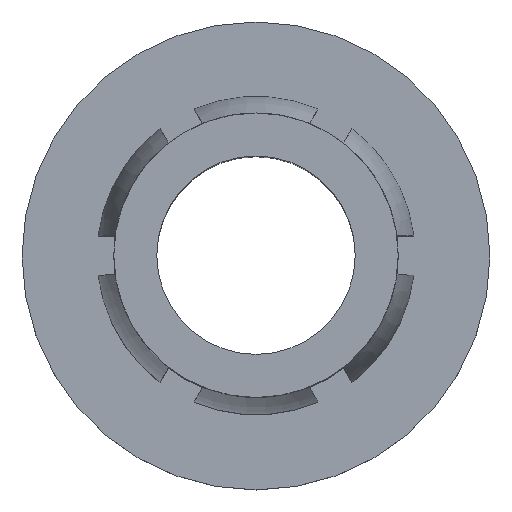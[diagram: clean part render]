
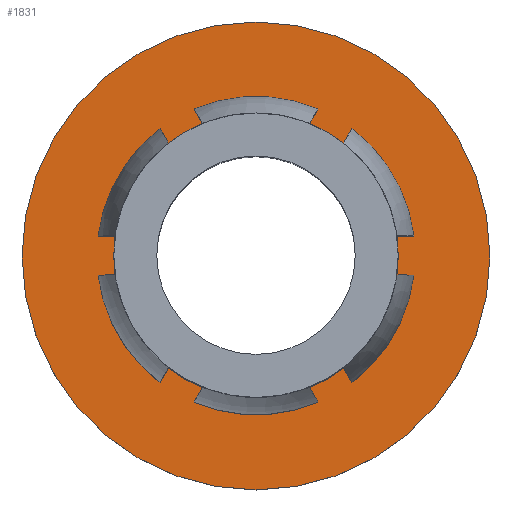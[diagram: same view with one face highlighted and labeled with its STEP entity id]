
A CAD part, top view. The second image highlights one B-rep face of the part: STEP entity #1831.
In plain terms, the highlighted planar face has unit normal (0, 0, 1).
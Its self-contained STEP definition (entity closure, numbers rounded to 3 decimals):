
#208 = PLANE ( 'NONE',  #724 ) ;
#209 = EDGE_CURVE ( 'NONE', #1171, #1171, #2308, .T. ) ;
#320 = DIRECTION ( 'NONE',  ( 0., 0., -1. ) ) ;
#487 = ORIENTED_EDGE ( 'NONE', *, *, #209, .F. ) ;
#724 = AXIS2_PLACEMENT_3D ( 'NONE', #3139, #1551, #3411 ) ;
#786 = EDGE_LOOP ( 'NONE', ( #487 ) ) ;
#862 = DIRECTION ( 'NONE',  ( 0., 0., -1. ) ) ;
#1092 = VERTEX_POINT ( 'NONE', #3271 ) ;
#1103 = FACE_BOUND ( 'NONE', #3320, .T. ) ;
#1171 = VERTEX_POINT ( 'NONE', #2473 ) ;
#1341 = AXIS2_PLACEMENT_3D ( 'NONE', #1912, #320, #2186 ) ;
#1412 = EDGE_CURVE ( 'NONE', #1092, #1092, #1706, .T. ) ;
#1551 = DIRECTION ( 'NONE',  ( 0., 0., -1. ) ) ;
#1706 = CIRCLE ( 'NONE', #1341, 2.896 ) ;
#1794 = ORIENTED_EDGE ( 'NONE', *, *, #1412, .T. ) ;
#1831 = ADVANCED_FACE ( 'NONE', ( #1103, #2427 ), #208, .F. ) ;
#1912 = CARTESIAN_POINT ( 'NONE',  ( 8.227, 0., -19.786 ) ) ;
#2186 = DIRECTION ( 'NONE',  ( -1., 0., 0. ) ) ;
#2308 = CIRCLE ( 'NONE', #2499, 4.763 ) ;
#2427 = FACE_OUTER_BOUND ( 'NONE', #786, .T. ) ;
#2473 = CARTESIAN_POINT ( 'NONE',  ( 3.464, 0., -19.786 ) ) ;
#2499 = AXIS2_PLACEMENT_3D ( 'NONE', #2983, #862, #2705 ) ;
#2705 = DIRECTION ( 'NONE',  ( -1., 0., 0. ) ) ;
#2983 = CARTESIAN_POINT ( 'NONE',  ( 8.227, 0., -19.786 ) ) ;
#3139 = CARTESIAN_POINT ( 'NONE',  ( 12.989, 0., -19.786 ) ) ;
#3271 = CARTESIAN_POINT ( 'NONE',  ( 5.331, 0., -19.786 ) ) ;
#3320 = EDGE_LOOP ( 'NONE', ( #1794 ) ) ;
#3411 = DIRECTION ( 'NONE',  ( -1., 0., 0. ) ) ;
